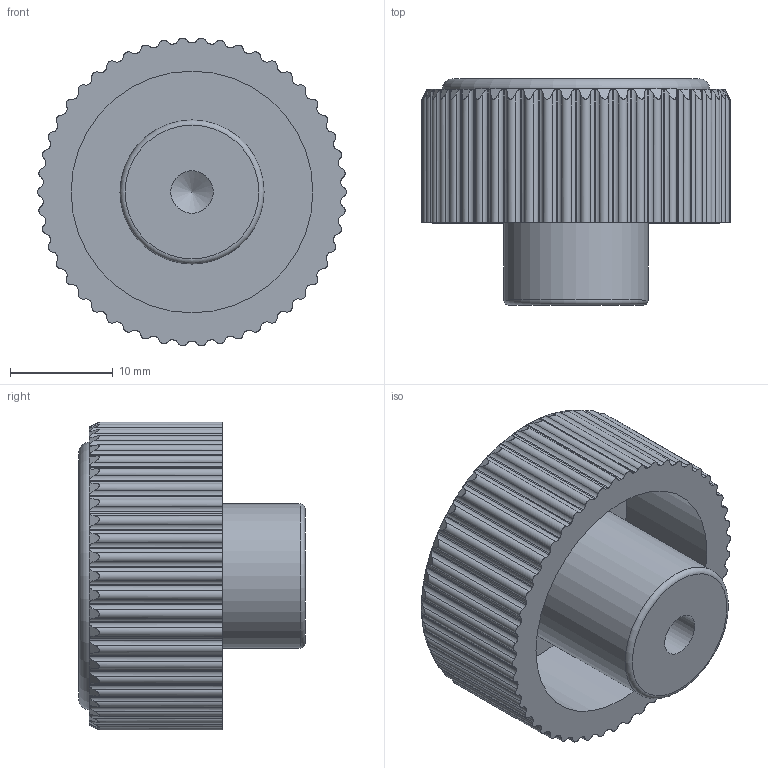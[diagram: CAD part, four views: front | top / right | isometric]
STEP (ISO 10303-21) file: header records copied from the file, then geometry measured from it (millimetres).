
FILE_DESCRIPTION(/* description */ (''),/* implementation_level */ '2;1');
FILE_NAME(/* name */ '\\SYNOLOGYNAS\web\db2\GKN_M\GKN-M5\도면\GKN-M5.stp',/* time_stamp */ '2024-05-01T13:34:33+09:00',/* author */ ('user'),/* organization */ (''),/* preprocessor_version */ 'ST-DEVELOPER v15.6',/* originating_system */ 'Autodesk Inventor 2015',/* authorisation */ '');
FILE_SCHEMA (('AUTOMOTIVE_DESIGN { 1 0 10303 214 3 1 1 }'));
Length unit declared in the file: millimetre
Products named in the file (1): GKN-M5
Bounding box: 30 x 22 x 29.94 mm (x, y, z)
Volume: 7214.2 mm3; surface area: 4687.3 mm2
Topology: 1 solids, 1 shells, 265 faces, 722 edges, 464 vertices
Faces by surface type: cylinder 203, cone 53, plane 7, torus 2
Full cylindrical faces by diameter (mm): 4.134 x1, 14 x1, 23.5 x1
Entity records: 9808 total; most frequent: CARTESIAN_POINT 3242, ORIENTED_EDGE 1426, DIRECTION 1358, EDGE_CURVE 713, AXIS2_PLACEMENT_3D 579, VERTEX_POINT 463, CIRCLE 313, EDGE_LOOP 278
